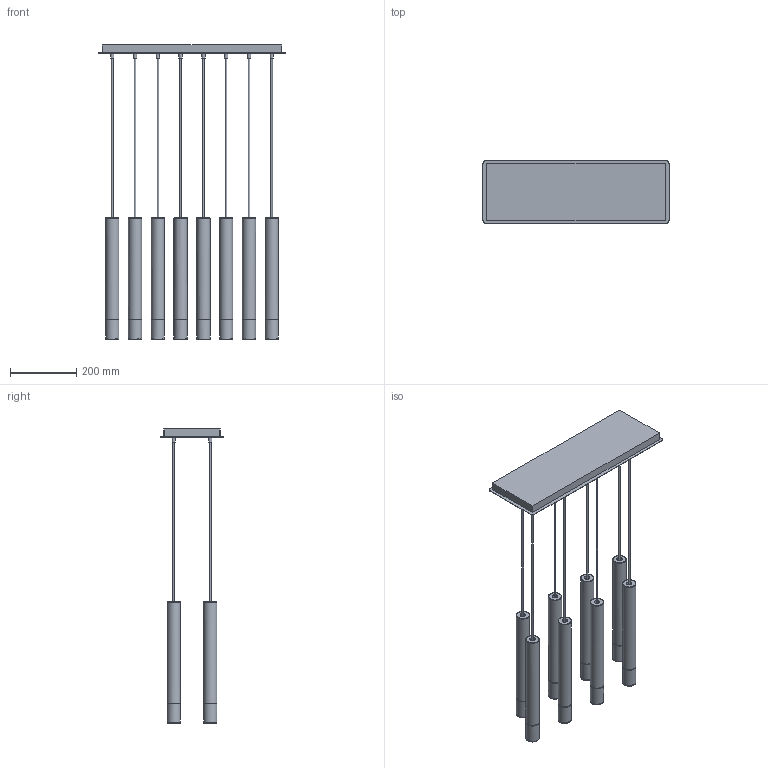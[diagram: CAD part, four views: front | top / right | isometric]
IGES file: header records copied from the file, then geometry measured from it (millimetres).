
Global section: file name: C:\Marek\TuXka\Liczy siX sXowo\_Modelowanie SIGMA\SOPEL\gotowe\SOPEL.igs; native system: HarmonyWare Translators; preprocessor: HarmonyWare IGES v1.7.11; date: 20220708.133358; units: centimetre
Bounding box: 560 x 190 x 885.43 mm (x, y, z)
Surface area: 1144338.1 mm2 (no closed solid volume)
Topology: 0 solids, 0 shells, 227 faces, 4834 edges, 4606 vertices
Faces by surface type: bspline 227
